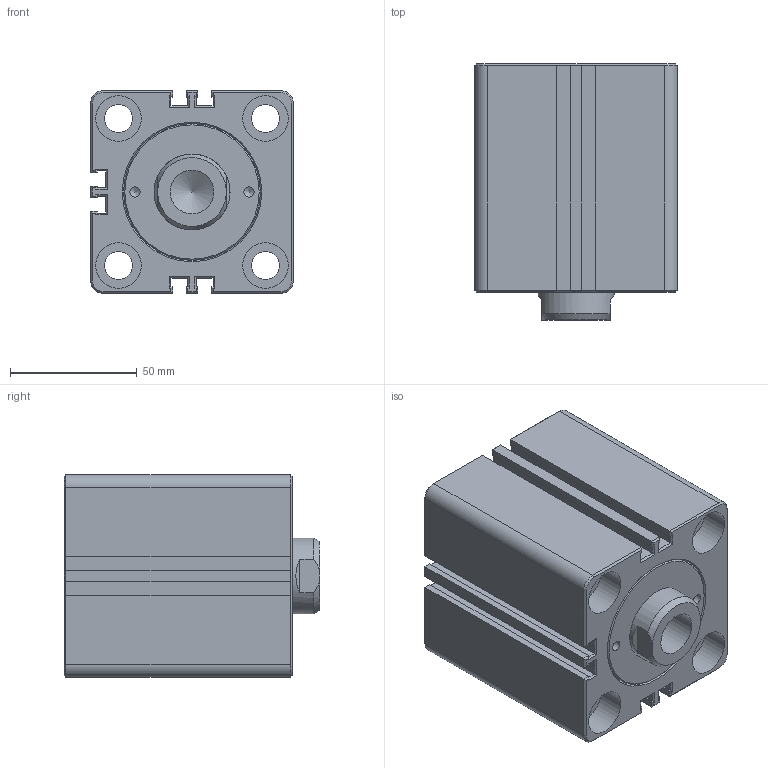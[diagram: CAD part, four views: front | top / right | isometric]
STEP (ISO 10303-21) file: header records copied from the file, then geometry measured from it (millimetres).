
FILE_DESCRIPTION(/* description */ ('Unknown'),/* implementation_level */ '2;1');
FILE_NAME(/* name */ 'HTM70-SD50X30N',/* time_stamp */ '2022-08-31T02:48:47+08:00',/* author */ ('Unknown'),/* organization */ ('Unknown'),/* preprocessor_version */ 'ST-DEVELOPER v16.7',/* originating_system */ 'DEX',/* authorisation */ $);
FILE_SCHEMA (('AUTOMOTIVE_DESIGN {1 0 10303 214 3 1 1}'));
Length unit declared in the file: millimetre
Products named in the file (1): HTM70-SD50X30N
Bounding box: 80 x 101 x 80 mm (x, y, z)
Volume: 503796.8 mm3; surface area: 65128.2 mm2
Topology: 1 solids, 1 shells, 235 faces, 542 edges, 323 vertices
Faces by surface type: plane 176, cone 24, cylinder 23, bspline 12
Full cylindrical faces by diameter (mm): 4.1 x2, 6 x1, 11 x4, 12.301 x2, 17.294 x1, 18 x8, 30 x1
Entity records: 8001 total; most frequent: CARTESIAN_POINT 1285, ORIENTED_EDGE 1002, DIRECTION 992, EDGE_CURVE 501, LINE 390, VECTOR 390, VERTEX_POINT 312, AXIS2_PLACEMENT_3D 301
